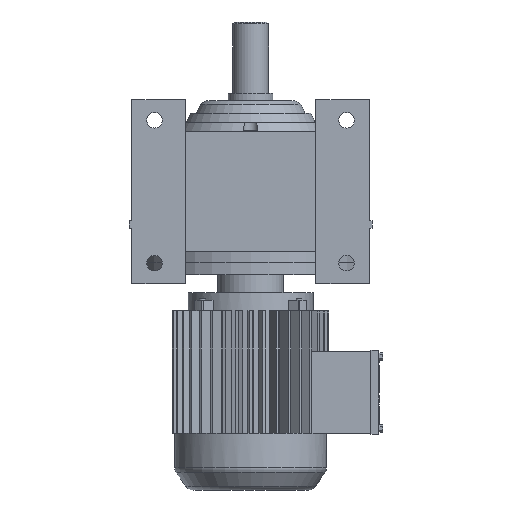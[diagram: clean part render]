
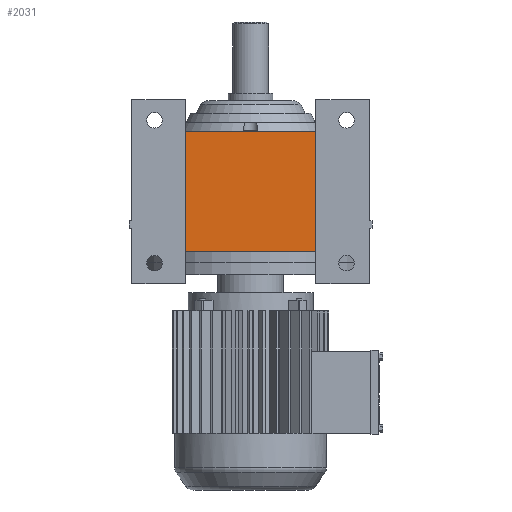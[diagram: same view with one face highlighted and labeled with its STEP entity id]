
A CAD part, front view. The second image highlights one B-rep face of the part: STEP entity #2031.
In plain terms, the highlighted planar face has unit normal (0, -1, 0).
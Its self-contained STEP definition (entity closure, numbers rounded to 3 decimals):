
#132 = PLANE('',#133);
#133 = AXIS2_PLACEMENT_3D('',#134,#135,#136);
#134 = CARTESIAN_POINT('',(-86.669,22.3,145.875));
#135 = DIRECTION('',(0.,0.,1.));
#136 = DIRECTION('',(1.,0.,0.));
#206 = VERTEX_POINT('',#207);
#207 = CARTESIAN_POINT('',(-73.,-188.5,145.875));
#223 = PLANE('',#224);
#224 = AXIS2_PLACEMENT_3D('',#225,#226,#227);
#225 = CARTESIAN_POINT('',(-73.,-163.5,-24.));
#226 = DIRECTION('',(1.,0.,0.));
#227 = DIRECTION('',(0.,0.,-1.));
#235 = EDGE_CURVE('',#206,#236,#238,.T.);
#236 = VERTEX_POINT('',#237);
#237 = CARTESIAN_POINT('',(73.,-188.5,145.875));
#238 = SURFACE_CURVE('',#239,(#243,#250),.PCURVE_S1.);
#239 = LINE('',#240,#241);
#240 = CARTESIAN_POINT('',(-133.,-188.5,145.875));
#241 = VECTOR('',#242,1.);
#242 = DIRECTION('',(1.,0.,0.));
#243 = PCURVE('',#132,#244);
#244 = DEFINITIONAL_REPRESENTATION('',(#245),#249);
#245 = LINE('',#246,#247);
#246 = CARTESIAN_POINT('',(-46.331,-210.8));
#247 = VECTOR('',#248,1.);
#248 = DIRECTION('',(1.,0.));
#249 = ( GEOMETRIC_REPRESENTATION_CONTEXT(2) 
PARAMETRIC_REPRESENTATION_CONTEXT() REPRESENTATION_CONTEXT('2D SPACE',''
  ) );
#250 = PCURVE('',#251,#256);
#251 = PLANE('',#252);
#252 = AXIS2_PLACEMENT_3D('',#253,#254,#255);
#253 = CARTESIAN_POINT('',(-133.,-188.5,145.875));
#254 = DIRECTION('',(0.,1.,0.));
#255 = DIRECTION('',(0.,0.,1.));
#256 = DEFINITIONAL_REPRESENTATION('',(#257),#261);
#257 = LINE('',#258,#259);
#258 = CARTESIAN_POINT('',(0.,0.));
#259 = VECTOR('',#260,1.);
#260 = DIRECTION('',(0.,1.));
#261 = ( GEOMETRIC_REPRESENTATION_CONTEXT(2) 
PARAMETRIC_REPRESENTATION_CONTEXT() REPRESENTATION_CONTEXT('2D SPACE',''
  ) );
#279 = PLANE('',#280);
#280 = AXIS2_PLACEMENT_3D('',#281,#282,#283);
#281 = CARTESIAN_POINT('',(73.,-163.5,-24.));
#282 = DIRECTION('',(-1.,0.,0.));
#283 = DIRECTION('',(0.,0.,1.));
#2031 = ADVANCED_FACE('',(#2032),#251,.F.);
#2032 = FACE_BOUND('',#2033,.T.);
#2033 = EDGE_LOOP('',(#2034,#2035,#2058,#2086));
#2034 = ORIENTED_EDGE('',*,*,#235,.F.);
#2035 = ORIENTED_EDGE('',*,*,#2036,.T.);
#2036 = EDGE_CURVE('',#206,#2037,#2039,.T.);
#2037 = VERTEX_POINT('',#2038);
#2038 = CARTESIAN_POINT('',(-73.,-188.5,12.125));
#2039 = SURFACE_CURVE('',#2040,(#2044,#2051),.PCURVE_S1.);
#2040 = LINE('',#2041,#2042);
#2041 = CARTESIAN_POINT('',(-73.,-188.5,145.875));
#2042 = VECTOR('',#2043,1.);
#2043 = DIRECTION('',(0.,0.,-1.));
#2044 = PCURVE('',#251,#2045);
#2045 = DEFINITIONAL_REPRESENTATION('',(#2046),#2050);
#2046 = LINE('',#2047,#2048);
#2047 = CARTESIAN_POINT('',(0.,60.));
#2048 = VECTOR('',#2049,1.);
#2049 = DIRECTION('',(-1.,0.));
#2050 = ( GEOMETRIC_REPRESENTATION_CONTEXT(2) 
PARAMETRIC_REPRESENTATION_CONTEXT() REPRESENTATION_CONTEXT('2D SPACE',''
  ) );
#2051 = PCURVE('',#223,#2052);
#2052 = DEFINITIONAL_REPRESENTATION('',(#2053),#2057);
#2053 = LINE('',#2054,#2055);
#2054 = CARTESIAN_POINT('',(-169.875,-25.));
#2055 = VECTOR('',#2056,1.);
#2056 = DIRECTION('',(1.,0.));
#2057 = ( GEOMETRIC_REPRESENTATION_CONTEXT(2) 
PARAMETRIC_REPRESENTATION_CONTEXT() REPRESENTATION_CONTEXT('2D SPACE',''
  ) );
#2058 = ORIENTED_EDGE('',*,*,#2059,.T.);
#2059 = EDGE_CURVE('',#2037,#2060,#2062,.T.);
#2060 = VERTEX_POINT('',#2061);
#2061 = CARTESIAN_POINT('',(73.,-188.5,12.125));
#2062 = SURFACE_CURVE('',#2063,(#2067,#2074),.PCURVE_S1.);
#2063 = LINE('',#2064,#2065);
#2064 = CARTESIAN_POINT('',(-133.,-188.5,12.125));
#2065 = VECTOR('',#2066,1.);
#2066 = DIRECTION('',(1.,0.,0.));
#2067 = PCURVE('',#251,#2068);
#2068 = DEFINITIONAL_REPRESENTATION('',(#2069),#2073);
#2069 = LINE('',#2070,#2071);
#2070 = CARTESIAN_POINT('',(-133.75,0.));
#2071 = VECTOR('',#2072,1.);
#2072 = DIRECTION('',(0.,1.));
#2073 = ( GEOMETRIC_REPRESENTATION_CONTEXT(2) 
PARAMETRIC_REPRESENTATION_CONTEXT() REPRESENTATION_CONTEXT('2D SPACE',''
  ) );
#2074 = PCURVE('',#2075,#2080);
#2075 = PLANE('',#2076);
#2076 = AXIS2_PLACEMENT_3D('',#2077,#2078,#2079);
#2077 = CARTESIAN_POINT('',(-86.669,22.3,12.125));
#2078 = DIRECTION('',(0.,0.,1.));
#2079 = DIRECTION('',(1.,0.,0.));
#2080 = DEFINITIONAL_REPRESENTATION('',(#2081),#2085);
#2081 = LINE('',#2082,#2083);
#2082 = CARTESIAN_POINT('',(-46.331,-210.8));
#2083 = VECTOR('',#2084,1.);
#2084 = DIRECTION('',(1.,0.));
#2085 = ( GEOMETRIC_REPRESENTATION_CONTEXT(2) 
PARAMETRIC_REPRESENTATION_CONTEXT() REPRESENTATION_CONTEXT('2D SPACE',''
  ) );
#2086 = ORIENTED_EDGE('',*,*,#2087,.T.);
#2087 = EDGE_CURVE('',#2060,#236,#2088,.T.);
#2088 = SURFACE_CURVE('',#2089,(#2093,#2100),.PCURVE_S1.);
#2089 = LINE('',#2090,#2091);
#2090 = CARTESIAN_POINT('',(73.,-188.5,145.875));
#2091 = VECTOR('',#2092,1.);
#2092 = DIRECTION('',(0.,0.,1.));
#2093 = PCURVE('',#251,#2094);
#2094 = DEFINITIONAL_REPRESENTATION('',(#2095),#2099);
#2095 = LINE('',#2096,#2097);
#2096 = CARTESIAN_POINT('',(0.,206.));
#2097 = VECTOR('',#2098,1.);
#2098 = DIRECTION('',(1.,0.));
#2099 = ( GEOMETRIC_REPRESENTATION_CONTEXT(2) 
PARAMETRIC_REPRESENTATION_CONTEXT() REPRESENTATION_CONTEXT('2D SPACE',''
  ) );
#2100 = PCURVE('',#279,#2101);
#2101 = DEFINITIONAL_REPRESENTATION('',(#2102),#2106);
#2102 = LINE('',#2103,#2104);
#2103 = CARTESIAN_POINT('',(169.875,-25.));
#2104 = VECTOR('',#2105,1.);
#2105 = DIRECTION('',(1.,0.));
#2106 = ( GEOMETRIC_REPRESENTATION_CONTEXT(2) 
PARAMETRIC_REPRESENTATION_CONTEXT() REPRESENTATION_CONTEXT('2D SPACE',''
  ) );
